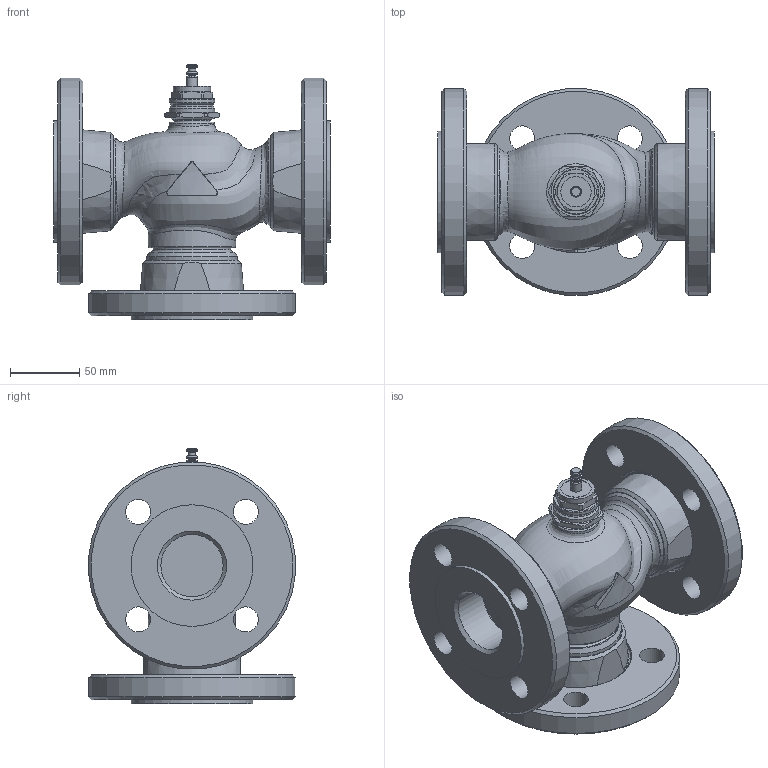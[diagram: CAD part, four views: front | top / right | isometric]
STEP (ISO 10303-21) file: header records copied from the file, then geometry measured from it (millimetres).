
FILE_DESCRIPTION(/* description */ (''),/* implementation_level */ '2;1');
FILE_NAME(/* name */ 'rv111s_dn40_3_F.stp',/* time_stamp */ '2012-02-28T09:08:41+01:00',/* author */ ('KLIMES'),/* organization */ ('LDM'),/* preprocessor_version */ 'ST-DEVELOPER v11',/* originating_system */ 'SIEMENS PLM Software NX 7.0',/* authorisation */ '');
FILE_SCHEMA (('CONFIG_CONTROL_DESIGN'));
Length unit declared in the file: millimetre
Products named in the file (1): klimEAFB3ckt
Bounding box: 200 x 149.43 x 184.95 mm (x, y, z)
Volume: 1635472.4 mm3; surface area: 220224.2 mm2
Topology: 4 solids, 4 shells, 228 faces, 516 edges, 324 vertices
Faces by surface type: cylinder 71, plane 63, cone 57, bspline 21, torus 16
Full cylindrical faces by diameter (mm): 5.3 x1, 5.5 x1, 8 x3, 18 x12, 22 x1, 26.5 x1, 27 x1, 33 x3, 45 x3, 56 x1, 62.752 x3, 63 x1, 65.71 x3, 66 x3, 88 x3, 150 x3
Entity records: 11773 total; most frequent: CARTESIAN_POINT 7280, DIRECTION 908, ORIENTED_EDGE 754, AXIS2_PLACEMENT_3D 421, EDGE_LOOP 385, EDGE_CURVE 377, FACE_BOUND 288, VERTEX_POINT 284
